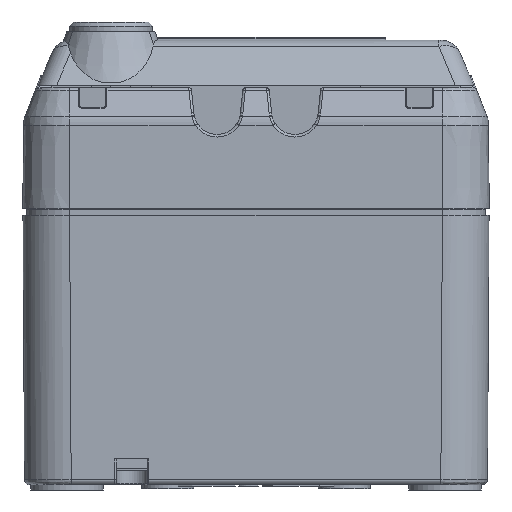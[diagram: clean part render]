
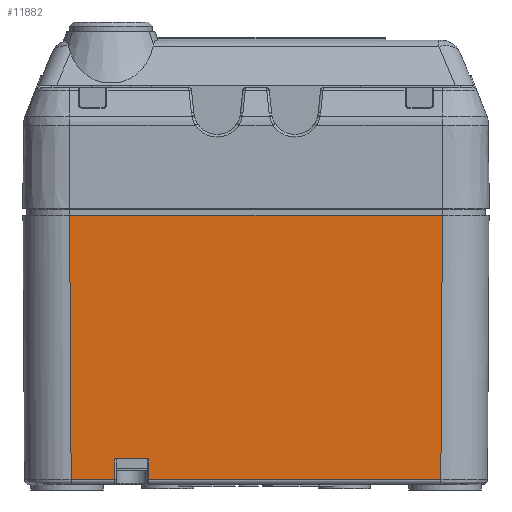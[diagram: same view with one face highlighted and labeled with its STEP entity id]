
A CAD part, front view. The second image highlights one B-rep face of the part: STEP entity #11882.
In plain terms, the highlighted planar face has unit normal (0, -1, -0.006).
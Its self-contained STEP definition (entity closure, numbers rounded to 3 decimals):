
#1539=CARTESIAN_POINT('',(35.666,-46.166,1.994));
#1541=DIRECTION('',(0.,-0.006,1.));
#1542=VECTOR('',#1541,4.006);
#1543=CARTESIAN_POINT('',(-20.7,-46.166,1.994));
#1544=LINE('1209',#1543,#1542);
#1545=DIRECTION('',(0.,0.006,-1.));
#1546=VECTOR('',#1545,4.006);
#1547=CARTESIAN_POINT('',(-27.3,-46.189,6.));
#1548=LINE('1222',#1547,#1546);
#1549=DIRECTION('',(-1.,0.,0.));
#1550=VECTOR('',#1549,8.366);
#1551=CARTESIAN_POINT('',(-27.3,-46.166,1.994));
#1552=LINE('1233',#1551,#1550);
#1553=DIRECTION('',(0.006,0.006,-1.));
#1554=VECTOR('',#1553,51.008);
#1555=CARTESIAN_POINT('',(-35.963,-46.463,53.));
#1556=LINE('1183',#1555,#1554);
#1557=DIRECTION('',(-0.006,0.006,-1.));
#1558=VECTOR('',#1557,51.008);
#1559=CARTESIAN_POINT('',(35.963,-46.463,53.));
#1560=LINE('1182',#1559,#1558);
#1561=DIRECTION('',(-1.,0.,0.));
#1562=VECTOR('',#1561,56.366);
#1563=CARTESIAN_POINT('',(35.666,-46.166,1.994));
#1564=LINE('1230',#1563,#1562);
#1582=DIRECTION('',(1.,0.,0.));
#1583=VECTOR('',#1582,6.6);
#1584=CARTESIAN_POINT('',(-27.3,-46.189,6.));
#1585=LINE('1252',#1584,#1583);
#1594=CARTESIAN_POINT('',(-35.666,-46.166,
1.994));
#1658=CARTESIAN_POINT('',(35.963,-46.463,53.));
#1660=DIRECTION('',(1.,0.,0.));
#1661=VECTOR('',#1660,71.926);
#1662=CARTESIAN_POINT('',(-35.963,-46.463,53.));
#1663=LINE('1164',#1662,#1661);
#1664=CARTESIAN_POINT('',(-35.963,-46.463,53.));
#8975=VERTEX_POINT('',#1664);
#8978=VERTEX_POINT('',#1658);
#9026=VERTEX_POINT('',#1594);
#9036=VERTEX_POINT('',#1539);
#9069=CARTESIAN_POINT('',(-20.7,-46.166,1.994));
#9070=CARTESIAN_POINT('',(-20.7,-46.189,6.));
#9071=VERTEX_POINT('',#9069);
#9072=VERTEX_POINT('',#9070);
#9095=CARTESIAN_POINT('',(-27.3,-46.166,1.994));
#9096=VERTEX_POINT('',#9095);
#9099=CARTESIAN_POINT('',(-27.3,-46.189,6.));
#9100=VERTEX_POINT('',#9099);
#11862=CARTESIAN_POINT('',(-47.2,-46.5,59.4));
#11863=DIRECTION('',(0.,-1.,-0.006));
#11864=DIRECTION('',(1.,0.,0.));
#11865=AXIS2_PLACEMENT_3D('',#11862,#11863,#11864);
#11866=PLANE('219',#11865);
#11868=ORIENTED_EDGE('1209',*,*,#11867,.T.);
#11870=ORIENTED_EDGE('1252',*,*,#11869,.F.);
#11872=ORIENTED_EDGE('1222',*,*,#11871,.T.);
#11873=ORIENTED_EDGE('1233',*,*,#11401,.T.);
#11875=ORIENTED_EDGE('1183',*,*,#11874,.F.);
#11877=ORIENTED_EDGE('1164',*,*,#11876,.T.);
#11878=ORIENTED_EDGE('1182',*,*,#11842,.T.);
#11879=ORIENTED_EDGE('1230',*,*,#11074,.T.);
#11880=EDGE_LOOP('219',(#11868,#11870,#11872,#11873,#11875,#11877,#11878,
#11879));
#11881=FACE_OUTER_BOUND('219',#11880,.F.);
#11074=EDGE_CURVE('1230',#9036,#9071,#1564,.T.);
#11401=EDGE_CURVE('1233',#9096,#9026,#1552,.T.);
#11842=EDGE_CURVE('1182',#8978,#9036,#1560,.T.);
#11867=EDGE_CURVE('1209',#9071,#9072,#1544,.T.);
#11869=EDGE_CURVE('1252',#9100,#9072,#1585,.T.);
#11871=EDGE_CURVE('1222',#9100,#9096,#1548,.T.);
#11874=EDGE_CURVE('1183',#8975,#9026,#1556,.T.);
#11876=EDGE_CURVE('1164',#8975,#8978,#1663,.T.);
#11882=ADVANCED_FACE('219',(#11881),#11866,.T.);
